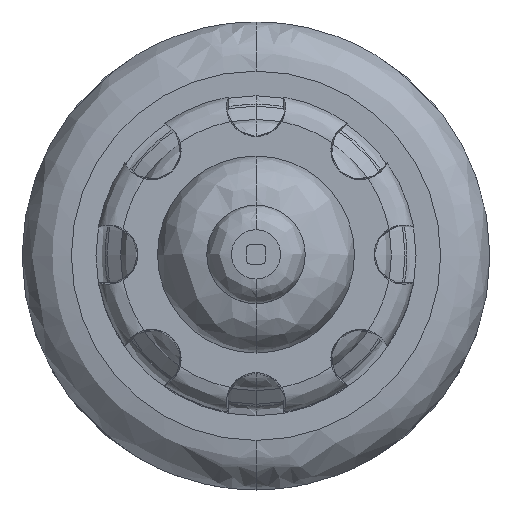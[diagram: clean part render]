
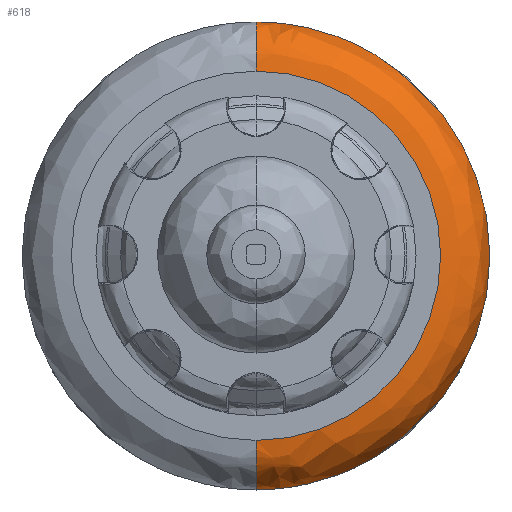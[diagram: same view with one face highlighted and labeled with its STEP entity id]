
A CAD part, top view. The second image highlights one B-rep face of the part: STEP entity #618.
In plain terms, the highlighted free-form (B-spline) face has degree [3, 3] with [4, 4] control points.
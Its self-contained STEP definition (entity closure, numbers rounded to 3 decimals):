
#563=CARTESIAN_POINT('',(0.0,37.5,-163.0));
#564=VERTEX_POINT('',#563);
#565=CARTESIAN_POINT('',(0.0,-37.5,-163.0));
#566=VERTEX_POINT('',#565);
#567=CARTESIAN_POINT('',(0.0,0.0,-163.0));
#568=DIRECTION('',(0.0,0.0,-1.0));
#569=DIRECTION('',(0.0,1.0,0.0));
#570=AXIS2_PLACEMENT_3D('',#567,#568,#569);
#571=CIRCLE('',#570,37.5);
#572=EDGE_CURVE('',#564,#566,#571,.T.);
#573=ORIENTED_EDGE('',*,*,#572,.T.);
#574=CARTESIAN_POINT('',(0.0,-37.5,-183.0));
#575=VERTEX_POINT('',#574);
#576=CARTESIAN_POINT('',(0.0,-37.5,-173.0));
#577=DIRECTION('',(1.0,0.0,0.0));
#578=DIRECTION('',(-0.0,1.0,0.0));
#579=AXIS2_PLACEMENT_3D('',#576,#577,#578);
#580=CIRCLE('',#579,10.0);
#581=EDGE_CURVE('',#566,#575,#580,.T.);
#582=ORIENTED_EDGE('',*,*,#581,.T.);
#583=CARTESIAN_POINT('',(0.0,37.5,-183.0));
#584=VERTEX_POINT('',#583);
#585=CARTESIAN_POINT('',(0.0,0.0,-183.0));
#586=DIRECTION('',(0.0,0.0,-1.0));
#587=DIRECTION('',(0.0,1.0,0.0));
#588=AXIS2_PLACEMENT_3D('',#585,#586,#587);
#589=CIRCLE('',#588,37.5);
#590=EDGE_CURVE('',#584,#575,#589,.T.);
#591=ORIENTED_EDGE('',*,*,#590,.F.);
#592=CARTESIAN_POINT('',(0.0,37.5,-173.0));
#593=DIRECTION('',(-1.0,0.0,0.0));
#594=DIRECTION('',(0.0,0.0,1.0));
#595=AXIS2_PLACEMENT_3D('',#592,#593,#594);
#596=CIRCLE('',#595,10.0);
#597=EDGE_CURVE('',#564,#584,#596,.T.);
#598=ORIENTED_EDGE('',*,*,#597,.F.);
#599=EDGE_LOOP('',(#573,#582,#591,#598));
#600=FACE_OUTER_BOUND('',#599,.T.);
#601=CARTESIAN_POINT('',(0.0,37.5,-183.0));
#602=CARTESIAN_POINT('',(75.0,37.5,-183.0));
#603=CARTESIAN_POINT('',(75.0,-37.5,-183.0));
#604=CARTESIAN_POINT('',(0.0,-37.5,-183.0));
#605=CARTESIAN_POINT('',(0.0,57.5,-183.0));
#606=CARTESIAN_POINT('',(115.0,57.5,-183.0));
#607=CARTESIAN_POINT('',(115.0,-57.5,-183.0));
#608=CARTESIAN_POINT('',(0.0,-57.5,-183.0));
#609=CARTESIAN_POINT('',(0.0,57.5,-163.0));
#610=CARTESIAN_POINT('',(115.0,57.5,-163.0));
#611=CARTESIAN_POINT('',(115.0,-57.5,-163.0));
#612=CARTESIAN_POINT('',(0.0,-57.5,-163.0));
#613=CARTESIAN_POINT('',(0.0,37.5,-163.0));
#614=CARTESIAN_POINT('',(75.0,37.5,-163.0));
#615=CARTESIAN_POINT('',(75.0,-37.5,-163.0));
#616=CARTESIAN_POINT('',(0.0,-37.5,-163.0));
#617=( BOUNDED_SURFACE() B_SPLINE_SURFACE(3,3,((#601,#602,#603,#604),(#605,#606,#607,#608),
    (#609,#610,#611,#612),(#613,#614,#615,#616)),.UNSPECIFIED.,.U.,.U.,.U.)
  B_SPLINE_SURFACE_WITH_KNOTS((4,4),(4,4),(0.0,1.0),(0.0,1.0),.UNSPECIFIED.)
  GEOMETRIC_REPRESENTATION_ITEM() RATIONAL_B_SPLINE_SURFACE(((1.0,0.333,0.333,1.0),(0.333,0.111,0.111,0.333),
    (0.333,0.111,0.111,0.333),(1.0,0.333,0.333,1.0))) REPRESENTATION_ITEM('') SURFACE() );
#618=ADVANCED_FACE('',(#600),#617,.T.);
